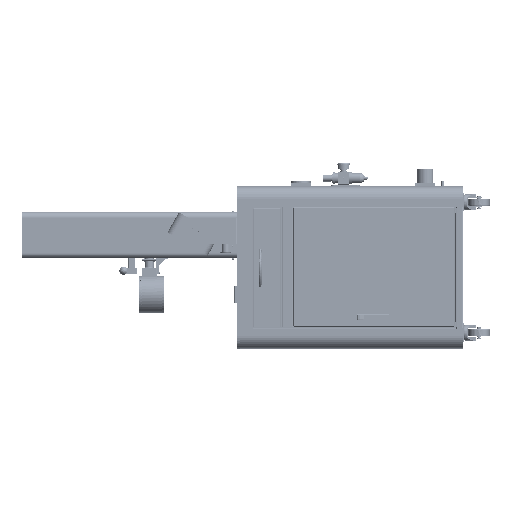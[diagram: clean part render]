
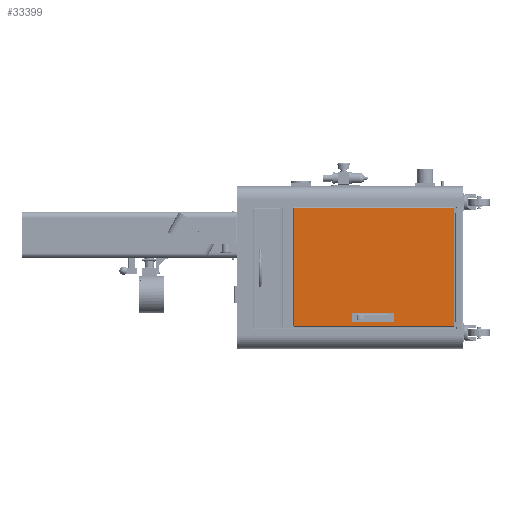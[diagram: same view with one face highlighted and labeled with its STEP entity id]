
A CAD part, left-side view. The second image highlights one B-rep face of the part: STEP entity #33399.
In plain terms, the highlighted planar face has unit normal (-1, 0, 0) as drawn and (0, 1, 0) by its records, which use the part's own axes.
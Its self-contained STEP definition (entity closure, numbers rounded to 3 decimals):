
#31998=DIRECTION('',(-1.,0.,0.));
#31999=VECTOR('',#31998,405.528);
#32000=CARTESIAN_POINT('',(202.764,0.,
275.264));
#32001=LINE('',#32000,#31999);
#32002=DIRECTION('',(0.,0.,-1.));
#32003=VECTOR('',#32002,550.528);
#32004=CARTESIAN_POINT('',(-202.764,0.,
275.264));
#32005=LINE('',#32004,#32003);
#32006=DIRECTION('',(1.,0.,0.));
#32007=VECTOR('',#32006,405.528);
#32008=CARTESIAN_POINT('',(-202.764,0.,
-275.264));
#32009=LINE('',#32008,#32007);
#32010=DIRECTION('',(0.,0.,1.));
#32011=VECTOR('',#32010,550.528);
#32012=CARTESIAN_POINT('',(202.764,0.,
-275.264));
#32013=LINE('',#32012,#32011);
#32014=DIRECTION('',(1.,0.,0.));
#32015=VECTOR('',#32014,8.25);
#32016=CARTESIAN_POINT('',(-170.25,0.,48.));
#32017=LINE('',#32016,#32015);
#32018=DIRECTION('',(0.,0.,-1.));
#32019=VECTOR('',#32018,96.);
#32020=CARTESIAN_POINT('',(-162.,0.,48.));
#32021=LINE('',#32020,#32019);
#32022=DIRECTION('',(0.,0.,-1.));
#32023=VECTOR('',#32022,4.25);
#32024=CARTESIAN_POINT('',(-170.25,0.,-48.));
#32025=LINE('',#32024,#32023);
#32026=CARTESIAN_POINT('',(-173.75,0.,-52.25));
#32027=DIRECTION('',(0.,1.,0.));
#32028=DIRECTION('',(1.,0.,0.));
#32029=AXIS2_PLACEMENT_3D('',#32026,#32027,#32028);
#32031=CARTESIAN_POINT('',(-173.75,0.,-52.25));
#32032=DIRECTION('',(0.,1.,0.));
#32033=DIRECTION('',(0.,0.,-1.));
#32034=AXIS2_PLACEMENT_3D('',#32031,#32032,#32033);
#32036=DIRECTION('',(1.,0.,0.));
#32037=VECTOR('',#32036,8.25);
#32038=CARTESIAN_POINT('',(-185.5,0.,48.));
#32039=LINE('',#32038,#32037);
#32040=CARTESIAN_POINT('',(-173.75,0.,52.25));
#32041=DIRECTION('',(0.,1.,0.));
#32042=DIRECTION('',(-1.,0.,0.));
#32043=AXIS2_PLACEMENT_3D('',#32040,#32041,#32042);
#32045=CARTESIAN_POINT('',(-173.75,0.,52.25));
#32046=DIRECTION('',(0.,1.,0.));
#32047=DIRECTION('',(0.,0.,1.));
#32048=AXIS2_PLACEMENT_3D('',#32045,#32046,#32047);
#32050=DIRECTION('',(0.,0.,-1.));
#32051=VECTOR('',#32050,4.25);
#32052=CARTESIAN_POINT('',(-170.25,0.,52.25));
#32053=LINE('',#32052,#32051);
#32054=CARTESIAN_POINT('',(-202.764,0.,
275.264));
#32496=DIRECTION('',(0.,0.,-1.));
#32497=VECTOR('',#32496,4.25);
#32498=CARTESIAN_POINT('',(-177.25,0.,52.25));
#32499=LINE('',#32498,#32497);
#32508=DIRECTION('',(0.,0.,-1.));
#32509=VECTOR('',#32508,96.);
#32510=CARTESIAN_POINT('',(-185.5,0.,48.));
#32511=LINE('',#32510,#32509);
#32520=DIRECTION('',(1.,0.,0.));
#32521=VECTOR('',#32520,8.25);
#32522=CARTESIAN_POINT('',(-185.5,0.,-48.));
#32523=LINE('',#32522,#32521);
#32524=DIRECTION('',(0.,0.,-1.));
#32525=VECTOR('',#32524,4.25);
#32526=CARTESIAN_POINT('',(-177.25,0.,-48.));
#32527=LINE('',#32526,#32525);
#32544=DIRECTION('',(1.,0.,0.));
#32545=VECTOR('',#32544,8.25);
#32546=CARTESIAN_POINT('',(-170.25,0.,-48.));
#32547=LINE('',#32546,#32545);
#32646=VERTEX_POINT('',#32054);
#32706=CARTESIAN_POINT('',(202.764,0.,
275.264));
#32707=VERTEX_POINT('',#32706);
#32738=CARTESIAN_POINT('',(-202.764,0.,
-275.264));
#32739=VERTEX_POINT('',#32738);
#32740=CARTESIAN_POINT('',(202.764,0.,
-275.264));
#32741=VERTEX_POINT('',#32740);
#32742=CARTESIAN_POINT('',(-170.25,0.,48.));
#32743=CARTESIAN_POINT('',(-162.,0.,48.));
#32744=VERTEX_POINT('',#32742);
#32745=VERTEX_POINT('',#32743);
#32746=CARTESIAN_POINT('',(-162.,0.,-48.));
#32747=VERTEX_POINT('',#32746);
#32748=CARTESIAN_POINT('',(-170.25,0.,-48.));
#32749=VERTEX_POINT('',#32748);
#32750=CARTESIAN_POINT('',(-170.25,0.,-52.25));
#32751=VERTEX_POINT('',#32750);
#32752=CARTESIAN_POINT('',(-173.75,0.,-55.75));
#32753=VERTEX_POINT('',#32752);
#32754=CARTESIAN_POINT('',(-177.25,0.,-52.25));
#32755=VERTEX_POINT('',#32754);
#32756=CARTESIAN_POINT('',(-177.25,0.,-48.));
#32757=VERTEX_POINT('',#32756);
#32758=CARTESIAN_POINT('',(-185.5,0.,-48.));
#32759=VERTEX_POINT('',#32758);
#32760=CARTESIAN_POINT('',(-185.5,0.,48.));
#32761=VERTEX_POINT('',#32760);
#32762=CARTESIAN_POINT('',(-177.25,0.,48.));
#32763=VERTEX_POINT('',#32762);
#32764=CARTESIAN_POINT('',(-177.25,0.,52.25));
#32765=VERTEX_POINT('',#32764);
#32766=CARTESIAN_POINT('',(-173.75,0.,55.75));
#32767=VERTEX_POINT('',#32766);
#32768=CARTESIAN_POINT('',(-170.25,0.,52.25));
#32769=VERTEX_POINT('',#32768);
#33355=CARTESIAN_POINT('',(0.,0.,0.));
#33356=DIRECTION('',(0.,-1.,0.));
#33357=DIRECTION('',(0.,0.,-1.));
#33358=AXIS2_PLACEMENT_3D('',#33355,#33356,#33357);
#33359=PLANE('',#33358);
#33360=ORIENTED_EDGE('',*,*,#33346,.T.);
#33362=ORIENTED_EDGE('',*,*,#33361,.T.);
#33364=ORIENTED_EDGE('',*,*,#33363,.T.);
#33366=ORIENTED_EDGE('',*,*,#33365,.T.);
#33367=EDGE_LOOP('',(#33360,#33362,#33364,#33366));
#33368=FACE_OUTER_BOUND('',#33367,.F.);
#33370=ORIENTED_EDGE('',*,*,#33369,.T.);
#33372=ORIENTED_EDGE('',*,*,#33371,.T.);
#33374=ORIENTED_EDGE('',*,*,#33373,.F.);
#33376=ORIENTED_EDGE('',*,*,#33375,.T.);
#33378=ORIENTED_EDGE('',*,*,#33377,.T.);
#33380=ORIENTED_EDGE('',*,*,#33379,.T.);
#33382=ORIENTED_EDGE('',*,*,#33381,.F.);
#33384=ORIENTED_EDGE('',*,*,#33383,.F.);
#33386=ORIENTED_EDGE('',*,*,#33385,.F.);
#33388=ORIENTED_EDGE('',*,*,#33387,.T.);
#33390=ORIENTED_EDGE('',*,*,#33389,.F.);
#33392=ORIENTED_EDGE('',*,*,#33391,.T.);
#33394=ORIENTED_EDGE('',*,*,#33393,.T.);
#33396=ORIENTED_EDGE('',*,*,#33395,.T.);
#33397=EDGE_LOOP('',(#33370,#33372,#33374,#33376,#33378,#33380,#33382,#33384,
#33386,#33388,#33390,#33392,#33394,#33396));
#33398=FACE_BOUND('',#33397,.F.);
#33399=ADVANCED_FACE('',(#33368,#33398),#33359,.F.);
#32030=CIRCLE('',#32029,3.5);
#32035=CIRCLE('',#32034,3.5);
#32044=CIRCLE('',#32043,3.5);
#32049=CIRCLE('',#32048,3.5);
#33346=EDGE_CURVE('',#32707,#32646,#32001,.T.);
#33361=EDGE_CURVE('',#32646,#32739,#32005,.T.);
#33363=EDGE_CURVE('',#32739,#32741,#32009,.T.);
#33365=EDGE_CURVE('',#32741,#32707,#32013,.T.);
#33369=EDGE_CURVE('',#32744,#32745,#32017,.T.);
#33371=EDGE_CURVE('',#32745,#32747,#32021,.T.);
#33373=EDGE_CURVE('',#32749,#32747,#32547,.T.);
#33375=EDGE_CURVE('',#32749,#32751,#32025,.T.);
#33377=EDGE_CURVE('',#32751,#32753,#32030,.T.);
#33379=EDGE_CURVE('',#32753,#32755,#32035,.T.);
#33381=EDGE_CURVE('',#32757,#32755,#32527,.T.);
#33383=EDGE_CURVE('',#32759,#32757,#32523,.T.);
#33385=EDGE_CURVE('',#32761,#32759,#32511,.T.);
#33387=EDGE_CURVE('',#32761,#32763,#32039,.T.);
#33389=EDGE_CURVE('',#32765,#32763,#32499,.T.);
#33391=EDGE_CURVE('',#32765,#32767,#32044,.T.);
#33393=EDGE_CURVE('',#32767,#32769,#32049,.T.);
#33395=EDGE_CURVE('',#32769,#32744,#32053,.T.);
